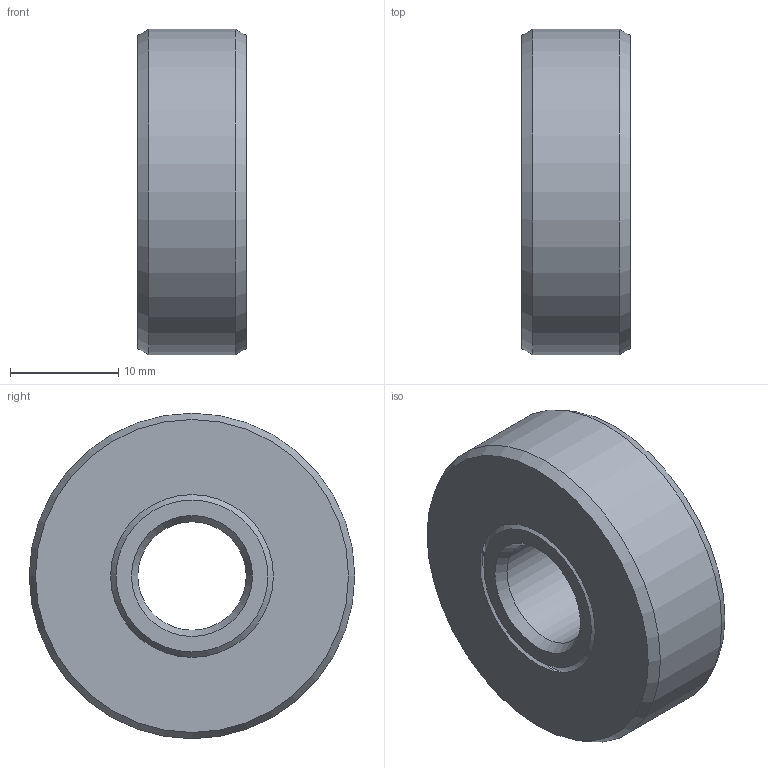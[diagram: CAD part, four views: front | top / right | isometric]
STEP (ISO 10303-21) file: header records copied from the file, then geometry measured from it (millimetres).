
FILE_DESCRIPTION(/* description */ (''),/* implementation_level */ '2;1');
FILE_NAME(/* name */ '301491 S10x30x10.stp',/* time_stamp */ '2016-12-16T13:15:13+01:00',/* author */ (''),/* organization */ (''),/* preprocessor_version */ 'ST-DEVELOPER v15',/* originating_system */ 'SIEMENS PLM Software NX 8.5',/* authorisation */ '');
FILE_SCHEMA (('CONFIG_CONTROL_DESIGN'));
Length unit declared in the file: millimetre
Products named in the file (1): ATE0000143_01
Bounding box: 10 x 30 x 30 mm (x, y, z)
Volume: 5906 mm3; surface area: 3831.4 mm2
Topology: 2 solids, 2 shells, 16 faces, 30 edges, 18 vertices
Faces by surface type: cone 10, plane 4, cylinder 2
Full cylindrical faces by diameter (mm): 10 x1, 30 x1
Entity records: 414 total; most frequent: DIRECTION 66, CARTESIAN_POINT 49, AXIS2_PLACEMENT_3D 33, FACE_BOUND 32, EDGE_LOOP 32, ORIENTED_EDGE 32, ADVANCED_FACE 16, VERTEX_POINT 16
